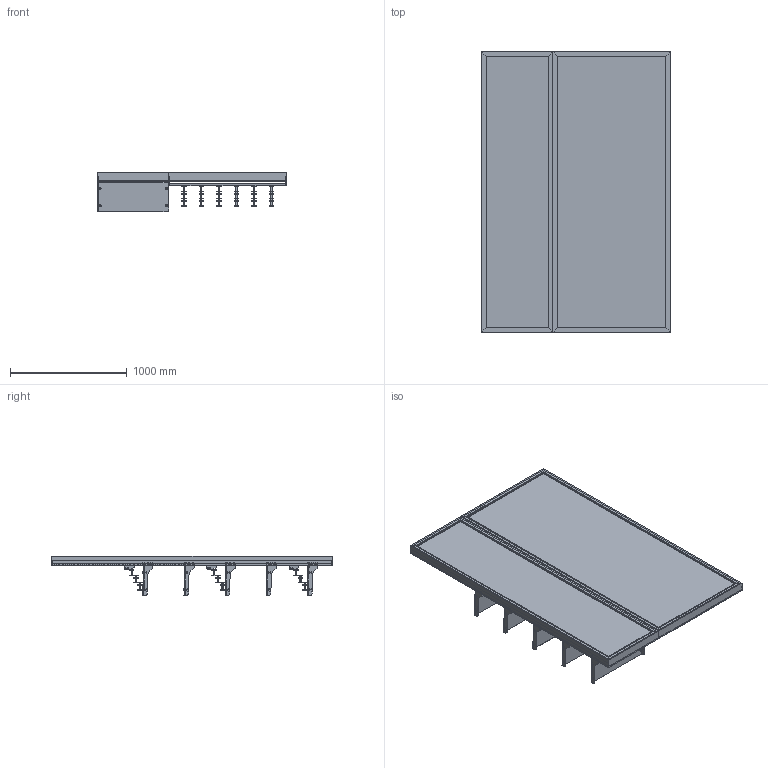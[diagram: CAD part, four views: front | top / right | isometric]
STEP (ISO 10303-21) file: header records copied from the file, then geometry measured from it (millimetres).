
FILE_DESCRIPTION (( 'STEP AP203' ), '1' );
FILE_NAME ('Padel Retail Display - Padel & Ball Solution 3.STEP', '2026-03-30T11:52:44', ( '' ), ( '' ), 'SwSTEP 2.0', 'SolidWorks 2025', '' );
FILE_SCHEMA (( 'CONFIG_CONTROL_DESIGN' ));
Length unit declared in the file: millimetre
Products named in the file (19): 370-01-GA01; 0001-31-103.STEP; 0001-31-GA10 - 1005W Slotted upbright; 0000-31-113.STEP; Padel Retail Display - Ball Solution_Assem1; Padel Retail Display - Padel & Ball Solution 3; 0001-31-115.STEP; 0001-31-131.STEP; 0001-31-114.STEP; 0001-31-SA28 - 610W Glass Shelf.STEP; 0001-31-SA29.STEP; 0001-31-SA26 - 1005W Rear support Bar.STEP; 0001-31-SA28 - 610W Glass Shelf_Assem5; Padel Racket Display 1005mm - 3 Tier Stepped Holder_Assem4; 0001-31-SA30.STEP; 0001-31-SA26 - 1005W Rear support Bar_Assem8; 0001-31-124.STEP; 0001-31-GA01 - 610W Slotted Upright; 0001-31-123.STEP
Assembly tree (50 placements, depth 6):
  Padel Retail Display - Padel & Ball Solution 3
    Padel Racket Display 1005mm - 3 Tier Stepped Holder_Assem4
      0001-31-GA10 - 1005W Slotted upbright
      0001-31-SA26 - 1005W Rear support Bar_Assem8  x3
        0001-31-SA26 - 1005W Rear support Bar.STEP
          0001-31-103.STEP  x2
          0001-31-131.STEP
      370-01-GA01  x12
    Padel Retail Display - Ball Solution_Assem1
      0001-31-GA01 - 610W Slotted Upright
      0001-31-SA28 - 610W Glass Shelf_Assem5  x5
        0001-31-SA28 - 610W Glass Shelf.STEP
          0001-31-SA29.STEP
            0000-31-113.STEP
            0001-31-114.STEP  x2
          0001-31-SA30.STEP
            0000-31-113.STEP
            0001-31-114.STEP  x2
          0001-31-115.STEP
          0001-31-123.STEP  x8
          0001-31-124.STEP  x4
Bounding box: 1615.49 x 2400 x 340.44 mm (x, y, z)
Volume: 22535456.2 mm3; surface area: 23270926.7 mm2
Topology: 344 solids, 344 shells, 4508 faces, 11550 edges, 7548 vertices
Faces by surface type: plane 2744, cylinder 1684, cone 80
Entity records: 50499 total; most frequent: CARTESIAN_POINT 9129, ORIENTED_EDGE 8636, DIRECTION 7128, EDGE_CURVE 4318, VECTOR 3866, LINE 3866, VERTEX_POINT 2864, AXIS2_PLACEMENT_3D 1631
